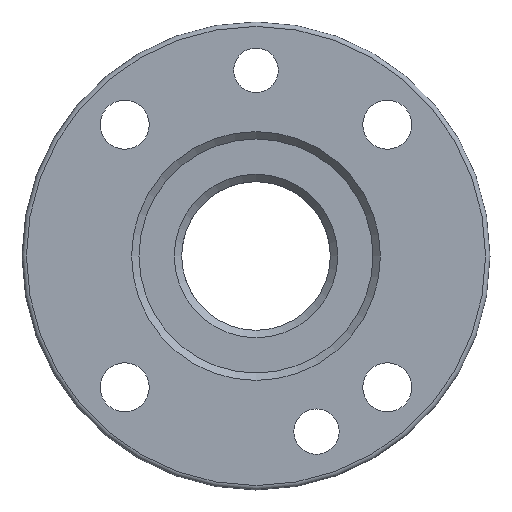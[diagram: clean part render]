
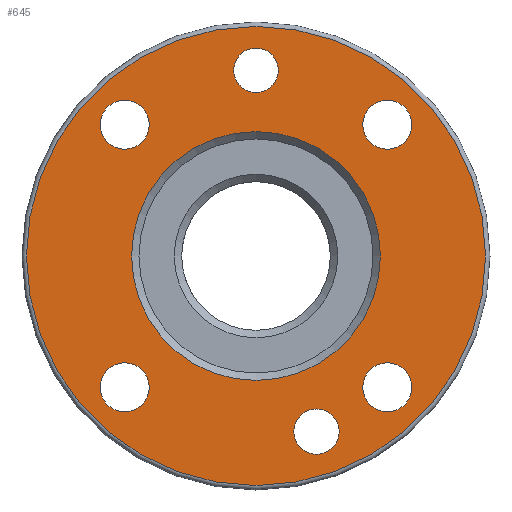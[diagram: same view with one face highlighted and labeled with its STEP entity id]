
A CAD part, front view. The second image highlights one B-rep face of the part: STEP entity #645.
In plain terms, the highlighted planar face has unit normal (0, -1, 0).
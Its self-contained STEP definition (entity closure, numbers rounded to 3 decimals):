
#32=FACE_BOUND('',#184,.T.);
#33=FACE_BOUND('',#185,.T.);
#34=FACE_BOUND('',#186,.T.);
#35=FACE_BOUND('',#187,.T.);
#36=FACE_BOUND('',#188,.T.);
#37=FACE_BOUND('',#189,.T.);
#38=FACE_BOUND('',#190,.T.);
#51=PLANE('',#711);
#146=FACE_OUTER_BOUND('',#183,.T.);
#183=EDGE_LOOP('',(#436));
#184=EDGE_LOOP('',(#437));
#185=EDGE_LOOP('',(#438));
#186=EDGE_LOOP('',(#439));
#187=EDGE_LOOP('',(#440));
#188=EDGE_LOOP('',(#441));
#189=EDGE_LOOP('',(#442));
#190=EDGE_LOOP('',(#443));
#239=CIRCLE('',#706,30.9);
#243=CIRCLE('',#712,16.75);
#244=CIRCLE('',#713,3.);
#245=CIRCLE('',#714,3.3);
#246=CIRCLE('',#715,3.3);
#247=CIRCLE('',#716,3.3);
#248=CIRCLE('',#717,3.3);
#249=CIRCLE('',#718,3.05);
#281=VERTEX_POINT('',#979);
#284=VERTEX_POINT('',#990);
#285=VERTEX_POINT('',#992);
#286=VERTEX_POINT('',#994);
#287=VERTEX_POINT('',#996);
#288=VERTEX_POINT('',#998);
#289=VERTEX_POINT('',#1000);
#290=VERTEX_POINT('',#1002);
#339=EDGE_CURVE('',#281,#281,#239,.T.);
#344=EDGE_CURVE('',#284,#284,#243,.T.);
#345=EDGE_CURVE('',#285,#285,#244,.T.);
#346=EDGE_CURVE('',#286,#286,#245,.T.);
#347=EDGE_CURVE('',#287,#287,#246,.T.);
#348=EDGE_CURVE('',#288,#288,#247,.T.);
#349=EDGE_CURVE('',#289,#289,#248,.T.);
#350=EDGE_CURVE('',#290,#290,#249,.T.);
#436=ORIENTED_EDGE('',*,*,#339,.F.);
#437=ORIENTED_EDGE('',*,*,#344,.F.);
#438=ORIENTED_EDGE('',*,*,#345,.T.);
#439=ORIENTED_EDGE('',*,*,#346,.T.);
#440=ORIENTED_EDGE('',*,*,#347,.T.);
#441=ORIENTED_EDGE('',*,*,#348,.T.);
#442=ORIENTED_EDGE('',*,*,#349,.T.);
#443=ORIENTED_EDGE('',*,*,#350,.T.);
#645=ADVANCED_FACE('',(#146,#32,#33,#34,#35,#36,#37,#38),#51,.T.);
#706=AXIS2_PLACEMENT_3D('',#981,#790,#791);
#711=AXIS2_PLACEMENT_3D('',#989,#801,#802);
#712=AXIS2_PLACEMENT_3D('',#991,#803,#804);
#713=AXIS2_PLACEMENT_3D('',#993,#805,#806);
#714=AXIS2_PLACEMENT_3D('',#995,#807,#808);
#715=AXIS2_PLACEMENT_3D('',#997,#809,#810);
#716=AXIS2_PLACEMENT_3D('',#999,#811,#812);
#717=AXIS2_PLACEMENT_3D('',#1001,#813,#814);
#718=AXIS2_PLACEMENT_3D('',#1003,#815,#816);
#790=DIRECTION('center_axis',(0.,1.,0.));
#791=DIRECTION('ref_axis',(1.,0.,0.));
#801=DIRECTION('center_axis',(0.,-1.,0.));
#802=DIRECTION('ref_axis',(0.,0.,-1.));
#803=DIRECTION('center_axis',(0.,-1.,0.));
#804=DIRECTION('ref_axis',(-1.,0.,0.));
#805=DIRECTION('center_axis',(0.,1.,0.));
#806=DIRECTION('ref_axis',(1.,0.,0.));
#807=DIRECTION('center_axis',(0.,1.,0.));
#808=DIRECTION('ref_axis',(1.,0.,0.));
#809=DIRECTION('center_axis',(0.,1.,0.));
#810=DIRECTION('ref_axis',(1.,0.,0.));
#811=DIRECTION('center_axis',(0.,1.,0.));
#812=DIRECTION('ref_axis',(1.,0.,0.));
#813=DIRECTION('center_axis',(0.,1.,0.));
#814=DIRECTION('ref_axis',(1.,0.,0.));
#815=DIRECTION('center_axis',(0.,1.,0.));
#816=DIRECTION('ref_axis',(1.,0.,0.));
#979=CARTESIAN_POINT('',(0.,0.,-30.9));
#981=CARTESIAN_POINT('Origin',(0.,0.,0.));
#989=CARTESIAN_POINT('Origin',(-20.75,0.,0.));
#990=CARTESIAN_POINT('',(16.75,0.,0.));
#991=CARTESIAN_POINT('Origin',(0.,0.,0.));
#992=CARTESIAN_POINT('',(-3.,0.,25.));
#993=CARTESIAN_POINT('Origin',(0.,0.,25.));
#994=CARTESIAN_POINT('',(-20.978,0.,-17.678));
#995=CARTESIAN_POINT('Origin',(-17.678,0.,-17.678));
#996=CARTESIAN_POINT('',(14.378,0.,17.678));
#997=CARTESIAN_POINT('Origin',(17.678,0.,17.678));
#998=CARTESIAN_POINT('',(-20.978,0.,17.678));
#999=CARTESIAN_POINT('Origin',(-17.678,0.,17.678));
#1000=CARTESIAN_POINT('',(14.378,0.,-17.678));
#1001=CARTESIAN_POINT('Origin',(17.678,0.,-17.678));
#1002=CARTESIAN_POINT('',(5.089,0.,-23.638));
#1003=CARTESIAN_POINT('Origin',(8.139,0.,-23.638));
